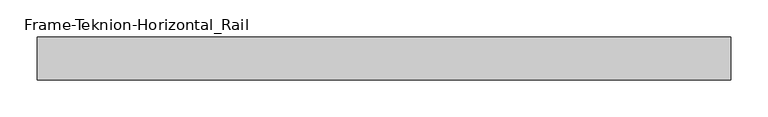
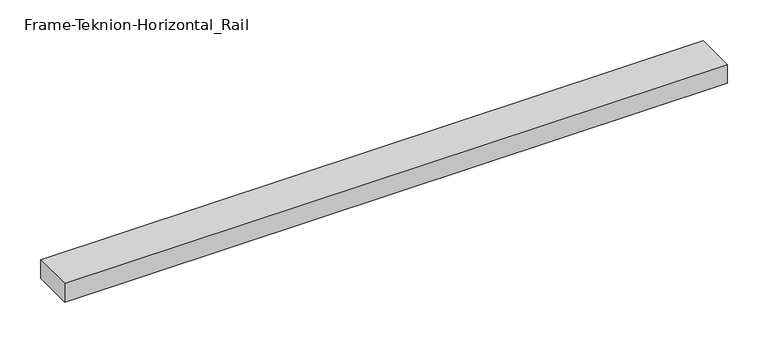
"""IFC4 building model written with IfcOpenShell, lengths in millimetres: proxy geometry, Frame-Teknion-Horizontal_Rail : FPKK."""

from ifc_helpers import new_model, si_unit, frame, origin, place, context, project, spatial, polyline, outline, extrude, source, transform, mapped, element, save


def frame_teknion_horizontal_rail_74d06c48(model_context):
    return source(origin(), model_context, "Body", "SweptSolid", [
        extrude(outline(polyline([(-468.6101562, -29.2199219), (-468.6101562, 29.2199219), (468.6101563, 29.2199219), (468.6101563, -29.2199219), (-468.6101562, -29.2199219)])), frame((0.0, 0.0, -13.9898438), z_axis=(0.0, 0.0, 1.0), x_axis=(1.0, 0.0, 0.0)), (0.0, 0.0, 1.0), 27.9796875),
    ])


if __name__ == "__main__":
    model = new_model("IFC4")
    model_context = context("Model", 3, world=origin())
    ifc_project = project(units=[si_unit("LENGTHUNIT", "METRE", prefix="MILLI")], contexts=[model_context])
    site = spatial("IfcSite", under=ifc_project)
    building = spatial("IfcBuilding", under=site)
    placement = place(None, origin())
    frame_teknion_horizontal_rail_shape = frame_teknion_horizontal_rail_74d06c48(model_context)
    element("IfcBuildingElementProxy", 1, Name="Frame-Teknion-Horizontal_Rail : FPKK", ObjectType="Frame-Teknion-Horizontal_Rail : FPKK", at=placement, inside=building, context=model_context, shape_type="MappedRepresentation", body=[
        mapped(frame_teknion_horizontal_rail_shape, transform((0.0, 0.0, 0.0), x_axis=(1.0, 0.0, 0.0), y_axis=(0.0, 1.0, 0.0), z_axis=(0.0, 0.0, 1.0))),
    ])
    save(model, "model.ifc")
